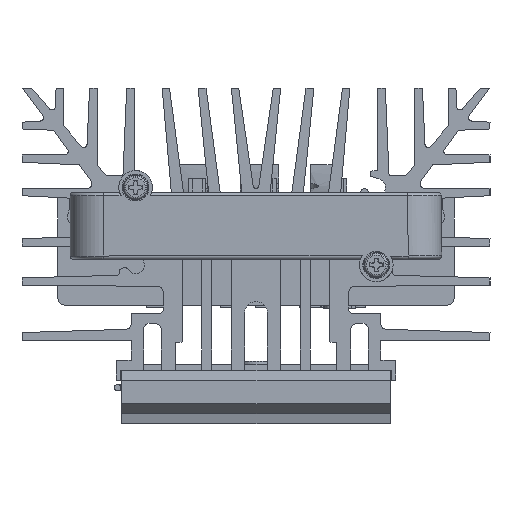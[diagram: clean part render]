
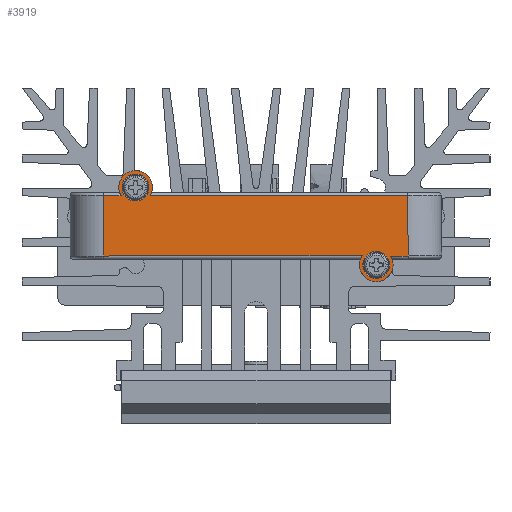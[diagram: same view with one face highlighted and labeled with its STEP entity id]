
A CAD part, front view. The second image highlights one B-rep face of the part: STEP entity #3919.
In plain terms, the highlighted planar face has unit normal (0, -1, 0).
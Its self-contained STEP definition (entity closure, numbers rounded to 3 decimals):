
#172=PLANE('',#12222);
#1217=LINE('',#16534,#2526);
#1218=LINE('',#16569,#2527);
#1220=LINE('',#16629,#2529);
#1222=LINE('',#16636,#2531);
#1223=LINE('',#16639,#2532);
#1224=LINE('',#16641,#2533);
#2526=VECTOR('',#13208,1.);
#2527=VECTOR('',#13213,1.);
#2529=VECTOR('',#13223,1.);
#2531=VECTOR('',#13231,1.);
#2532=VECTOR('',#13234,1.);
#2533=VECTOR('',#13235,1.);
#3919=ADVANCED_FACE('',(#4724,#4725,#4726),#172,.T.);
#4724=FACE_BOUND('',#4863,.T.);
#4725=FACE_BOUND('',#4864,.T.);
#4726=FACE_BOUND('',#4865,.T.);
#4863=EDGE_LOOP('',(#5608));
#4864=EDGE_LOOP('',(#5609));
#4865=EDGE_LOOP('',(#5610,#5611,#5612,#5613,#5614,#5615,#5616,#5617));
#5608=ORIENTED_EDGE('',*,*,#10181,.T.);
#5609=ORIENTED_EDGE('',*,*,#10182,.F.);
#5610=ORIENTED_EDGE('',*,*,#10171,.T.);
#5611=ORIENTED_EDGE('',*,*,#10159,.T.);
#5612=ORIENTED_EDGE('',*,*,#10167,.T.);
#5613=ORIENTED_EDGE('',*,*,#10183,.T.);
#5614=ORIENTED_EDGE('',*,*,#10179,.T.);
#5615=ORIENTED_EDGE('',*,*,#10184,.T.);
#5616=ORIENTED_EDGE('',*,*,#10185,.T.);
#5617=ORIENTED_EDGE('',*,*,#10186,.T.);
#9014=VERTEX_POINT('',#16488);
#9015=VERTEX_POINT('',#16489);
#9021=VERTEX_POINT('',#16533);
#9024=VERTEX_POINT('',#16570);
#9027=VERTEX_POINT('',#16577);
#9030=VERTEX_POINT('',#16627);
#9032=VERTEX_POINT('',#16633);
#9033=VERTEX_POINT('',#16635);
#9034=VERTEX_POINT('',#16638);
#9035=VERTEX_POINT('',#16640);
#10159=EDGE_CURVE('',#9014,#9015,#11875,.T.);
#10167=EDGE_CURVE('',#9015,#9021,#1217,.T.);
#10171=EDGE_CURVE('',#9024,#9014,#1218,.T.);
#10179=EDGE_CURVE('',#9027,#9030,#1220,.T.);
#10181=EDGE_CURVE('',#9032,#9032,#11882,.T.);
#10182=EDGE_CURVE('',#9033,#9033,#11883,.T.);
#10183=EDGE_CURVE('',#9021,#9027,#1222,.T.);
#10184=EDGE_CURVE('',#9030,#9034,#11884,.T.);
#10185=EDGE_CURVE('',#9034,#9035,#1223,.T.);
#10186=EDGE_CURVE('',#9035,#9024,#1224,.T.);
#11875=CIRCLE('',#12208,2.5);
#11882=CIRCLE('',#12219,2.);
#11883=CIRCLE('',#12220,2.);
#11884=CIRCLE('',#12221,2.5);
#12208=AXIS2_PLACEMENT_3D('',#16487,#13197,#13198);
#12219=AXIS2_PLACEMENT_3D('',#16632,#13227,#13228);
#12220=AXIS2_PLACEMENT_3D('',#16634,#13229,#13230);
#12221=AXIS2_PLACEMENT_3D('',#16637,#13232,#13233);
#12222=AXIS2_PLACEMENT_3D('',#16642,#13236,#13237);
#13197=DIRECTION('',(0.,-1.,0.));
#13198=DIRECTION('',(0.,0.,-1.));
#13208=DIRECTION('',(-1.,0.,0.));
#13213=DIRECTION('',(-1.,0.,0.));
#13223=DIRECTION('',(1.,0.,0.));
#13227=DIRECTION('',(0.,1.,0.));
#13228=DIRECTION('',(0.,0.,1.));
#13229=DIRECTION('',(0.,-1.,0.));
#13230=DIRECTION('',(0.,0.,-1.));
#13231=DIRECTION('',(0.,0.,-1.));
#13232=DIRECTION('',(0.,-1.,0.));
#13233=DIRECTION('',(0.,0.,-1.));
#13234=DIRECTION('',(1.,0.,0.));
#13235=DIRECTION('',(-0.011,0.,1.));
#13236=DIRECTION('',(0.,-1.,0.));
#13237=DIRECTION('',(0.,0.,1.));
#16487=CARTESIAN_POINT('',(-199.938,26.7,-6.195));
#16488=CARTESIAN_POINT('',(-197.776,26.7,-7.45));
#16489=CARTESIAN_POINT('',(-202.1,26.7,-7.45));
#16533=CARTESIAN_POINT('',(-204.686,26.7,-7.45));
#16534=CARTESIAN_POINT('',(-204.686,26.7,-7.45));
#16569=CARTESIAN_POINT('',(-164.082,26.7,-7.45));
#16570=CARTESIAN_POINT('',(-159.425,26.7,-7.45));
#16577=CARTESIAN_POINT('',(-204.683,26.7,-16.4));
#16627=CARTESIAN_POINT('',(-166.202,26.7,-16.4));
#16629=CARTESIAN_POINT('',(-164.082,26.7,-16.4));
#16632=CARTESIAN_POINT('',(-164.082,26.7,-17.726));
#16633=CARTESIAN_POINT('',(-164.082,26.7,-15.726));
#16634=CARTESIAN_POINT('',(-199.938,26.7,-6.195));
#16635=CARTESIAN_POINT('',(-199.938,26.7,-8.195));
#16636=CARTESIAN_POINT('',(-204.683,26.7,-16.283));
#16637=CARTESIAN_POINT('',(-164.082,26.7,-17.726));
#16638=CARTESIAN_POINT('',(-161.963,26.7,-16.4));
#16639=CARTESIAN_POINT('',(-178.3,26.7,-16.4));
#16640=CARTESIAN_POINT('',(-159.329,26.7,-16.4));
#16641=CARTESIAN_POINT('',(-159.423,26.7,-7.638));
#16642=CARTESIAN_POINT('',(-164.082,26.7,-17.726));
